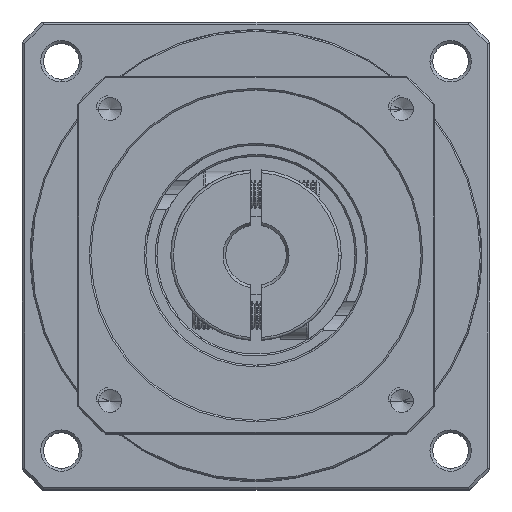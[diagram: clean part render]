
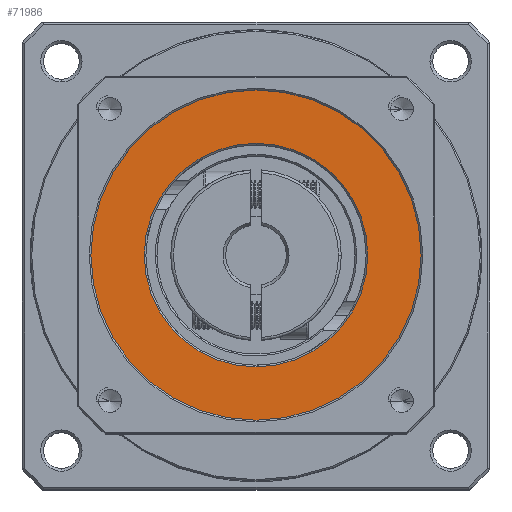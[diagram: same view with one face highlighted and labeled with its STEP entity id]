
A CAD part, top view. The second image highlights one B-rep face of the part: STEP entity #71986.
In plain terms, the highlighted planar face has unit normal (0, 0, 1).
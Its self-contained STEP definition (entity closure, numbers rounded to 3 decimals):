
#77 = DIRECTION ( 'NONE',  ( 1., 0., 0. ) ) ;
#781 = CIRCLE ( 'NONE', #94873, 20.3 ) ;
#1123 = AXIS2_PLACEMENT_3D ( 'NONE', #70500, #17920, #79220 ) ;
#2276 = VERTEX_POINT ( 'NONE', #22998 ) ;
#2368 = DIRECTION ( 'NONE',  ( 1., 0., 0. ) ) ;
#3994 = ORIENTED_EDGE ( 'NONE', *, *, #80559, .T. ) ;
#4862 = PLANE ( 'NONE',  #32388 ) ;
#11545 = FACE_BOUND ( 'NONE', #100355, .T. ) ;
#13197 = DIRECTION ( 'NONE',  ( 0., 0., -1. ) ) ;
#17920 = DIRECTION ( 'NONE',  ( 0., 0., 1. ) ) ;
#22998 = CARTESIAN_POINT ( 'NONE',  ( -99.382, 21.546, 21.706 ) ) ;
#25129 = CIRCLE ( 'NONE', #79185, 20.3 ) ;
#25942 = CARTESIAN_POINT ( 'NONE',  ( -49.082, 21.546, 21.706 ) ) ;
#26792 = ORIENTED_EDGE ( 'NONE', *, *, #33950, .T. ) ;
#32388 = AXIS2_PLACEMENT_3D ( 'NONE', #40333, #101333, #49211 ) ;
#33950 = EDGE_CURVE ( 'NONE', #41120, #109709, #781, .T. ) ;
#35049 = FACE_OUTER_BOUND ( 'NONE', #93854, .T. ) ;
#40333 = CARTESIAN_POINT ( 'NONE',  ( -69.382, 21.546, 21.706 ) ) ;
#41120 = VERTEX_POINT ( 'NONE', #44149 ) ;
#43490 = EDGE_CURVE ( 'NONE', #45842, #2276, #48254, .T. ) ;
#44149 = CARTESIAN_POINT ( 'NONE',  ( -89.682, 21.546, 21.706 ) ) ;
#45842 = VERTEX_POINT ( 'NONE', #75976 ) ;
#48254 = CIRCLE ( 'NONE', #68267, 30. ) ;
#49211 = DIRECTION ( 'NONE',  ( 1., 0., 0. ) ) ;
#52062 = ORIENTED_EDGE ( 'NONE', *, *, #43490, .T. ) ;
#52892 = DIRECTION ( 'NONE',  ( 0., 0., -1. ) ) ;
#55125 = DIRECTION ( 'NONE',  ( 0., 0., 1. ) ) ;
#65811 = CARTESIAN_POINT ( 'NONE',  ( -69.382, 21.546, 21.706 ) ) ;
#68267 = AXIS2_PLACEMENT_3D ( 'NONE', #107177, #55125, #2368 ) ;
#70500 = CARTESIAN_POINT ( 'NONE',  ( -69.382, 21.546, 21.706 ) ) ;
#71986 = ADVANCED_FACE ( 'NONE', ( #11545, #35049 ), #4862, .T. ) ;
#74598 = DIRECTION ( 'NONE',  ( 1., 0., 0. ) ) ;
#75976 = CARTESIAN_POINT ( 'NONE',  ( -39.382, 21.546, 21.706 ) ) ;
#79185 = AXIS2_PLACEMENT_3D ( 'NONE', #65811, #13197, #74598 ) ;
#79220 = DIRECTION ( 'NONE',  ( 1., 0., 0. ) ) ;
#80559 = EDGE_CURVE ( 'NONE', #2276, #45842, #96403, .T. ) ;
#87184 = EDGE_CURVE ( 'NONE', #109709, #41120, #25129, .T. ) ;
#93854 = EDGE_LOOP ( 'NONE', ( #52062, #3994 ) ) ;
#94873 = AXIS2_PLACEMENT_3D ( 'NONE', #104934, #52892, #77 ) ;
#96403 = CIRCLE ( 'NONE', #1123, 30. ) ;
#100355 = EDGE_LOOP ( 'NONE', ( #113353, #26792 ) ) ;
#101333 = DIRECTION ( 'NONE',  ( 0., 0., 1. ) ) ;
#104934 = CARTESIAN_POINT ( 'NONE',  ( -69.382, 21.546, 21.706 ) ) ;
#107177 = CARTESIAN_POINT ( 'NONE',  ( -69.382, 21.546, 21.706 ) ) ;
#109709 = VERTEX_POINT ( 'NONE', #25942 ) ;
#113353 = ORIENTED_EDGE ( 'NONE', *, *, #87184, .T. ) ;
